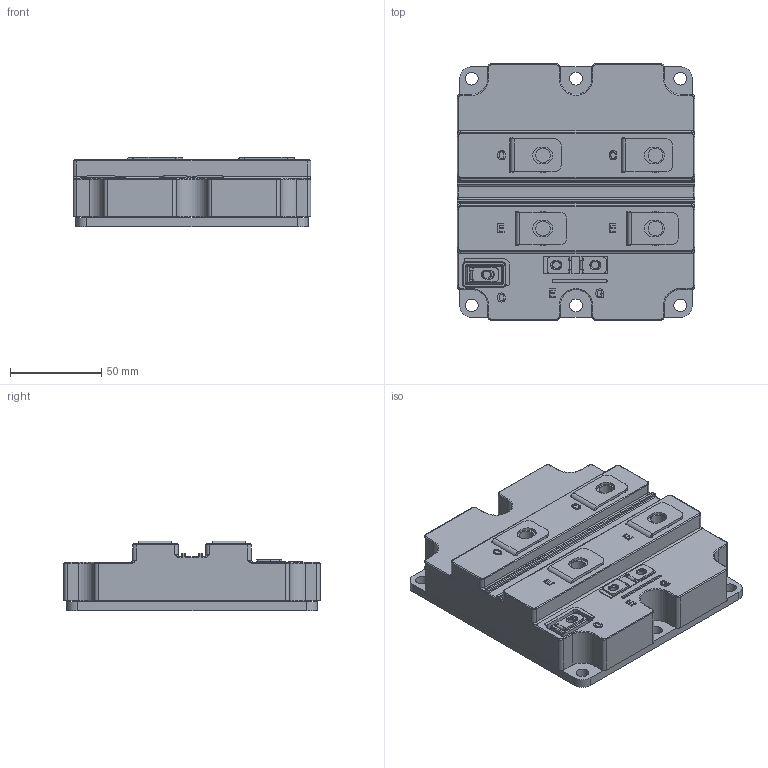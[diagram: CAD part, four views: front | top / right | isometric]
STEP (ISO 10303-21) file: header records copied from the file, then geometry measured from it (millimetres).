
FILE_DESCRIPTION (( 'STEP AP214' ), '1' );
FILE_NAME ('LD-ES-170634-MBN1200F33F-C.STEP', '2017-08-25T04:19:23', ( 'Flora110' ), ( '' ), 'SwSTEP 2.0', 'SolidWorks 2010', '' );
FILE_SCHEMA (( 'AUTOMOTIVE_DESIGN' ));
Length unit declared in the file: millimetre
Products named in the file (1): LD-ES-170634-MBN1200F33F-C
Bounding box: 130 x 140 x 38 mm (x, y, z)
Volume: 504665.7 mm3; surface area: 99736.7 mm2
Topology: 1 solids, 5 shells, 896 faces, 2363 edges, 1497 vertices
Faces by surface type: plane 453, cylinder 279, bspline 72, torus 57, cone 19, sphere 16
Full cylindrical faces by diameter (mm): 1.25 x6, 3.1 x4, 3.5 x4, 4 x7, 4.5 x4, 6 x4, 7 x10, 8 x4, 9 x4, 18.1 x4, 18.5 x4
Entity records: 39488 total; most frequent: CARTESIAN_POINT 8067, ORIENTED_EDGE 4440, DIRECTION 4355, EDGE_CURVE 2220, AXIS2_PLACEMENT_3D 1474, VERTEX_POINT 1456, LINE 1407, VECTOR 1407
